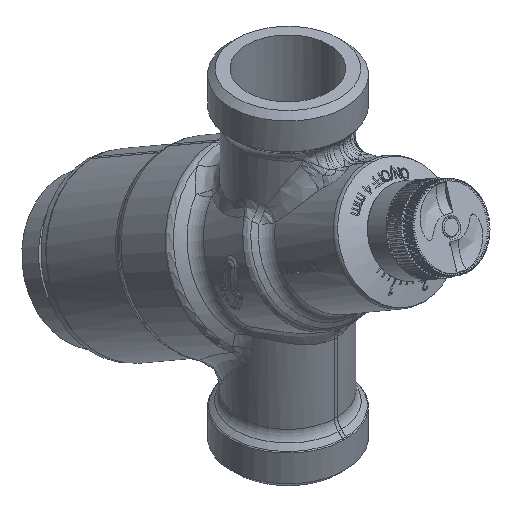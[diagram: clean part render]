
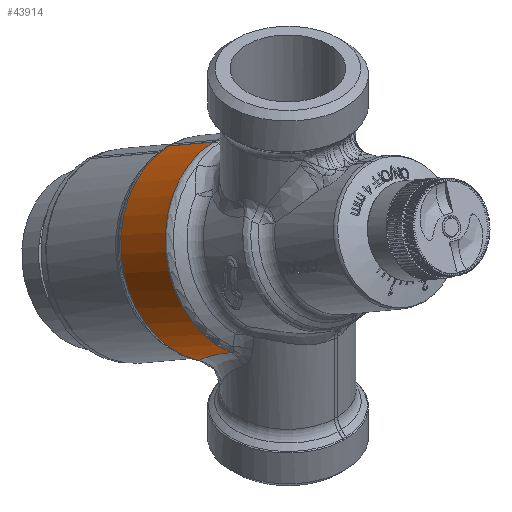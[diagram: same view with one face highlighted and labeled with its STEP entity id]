
A CAD part, isometric view. The second image highlights one B-rep face of the part: STEP entity #43914.
In plain terms, the highlighted cylindrical face has radius 18.65 mm (diameter 37.3 mm), a partial arc.
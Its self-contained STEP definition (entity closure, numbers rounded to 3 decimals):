
#2146=CIRCLE('',#47064,18.65);
#2147=CIRCLE('',#47066,18.65);
#5646=FACE_OUTER_BOUND('',#8193,.T.);
#8193=EDGE_LOOP('',(#31543,#31544,#31545,#31546));
#10925=B_SPLINE_CURVE_WITH_KNOTS('',3,(#72206,#72207,#72208,#72209,#72210,
#72211,#72212,#72213,#72214,#72215),.UNSPECIFIED.,.F.,.F.,(4,2,2,2,4),(0.,
0.003,0.006,0.009,0.012),
 .UNSPECIFIED.);
#12309=LINE('',#74637,#15588);
#15588=VECTOR('',#51237,1000.);
#19238=VERTEX_POINT('',#72010);
#19243=VERTEX_POINT('',#72204);
#19287=VERTEX_POINT('',#74632);
#19288=VERTEX_POINT('',#74636);
#23985=EDGE_CURVE('',#19238,#19243,#10925,.T.);
#24066=EDGE_CURVE('',#19243,#19287,#2146,.T.);
#24067=EDGE_CURVE('',#19287,#19288,#12309,.T.);
#24068=EDGE_CURVE('',#19238,#19288,#2147,.T.);
#31543=ORIENTED_EDGE('',*,*,#24066,.T.);
#31544=ORIENTED_EDGE('',*,*,#24067,.T.);
#31545=ORIENTED_EDGE('',*,*,#24068,.F.);
#31546=ORIENTED_EDGE('',*,*,#23985,.T.);
#43158=CYLINDRICAL_SURFACE('',#47065,18.65);
#43914=ADVANCED_FACE('',(#5646),#43158,.T.);
#47064=AXIS2_PLACEMENT_3D('',#74634,#51233,#51234);
#47065=AXIS2_PLACEMENT_3D('',#74635,#51235,#51236);
#47066=AXIS2_PLACEMENT_3D('',#74638,#51238,#51239);
#51233=DIRECTION('center_axis',(0.,0.866,
-0.5));
#51234=DIRECTION('ref_axis',(0.,0.5,0.866));
#51235=DIRECTION('center_axis',(0.,0.866,
-0.5));
#51236=DIRECTION('ref_axis',(0.,0.5,0.866));
#51237=DIRECTION('',(0.,0.866,-0.5));
#51238=DIRECTION('center_axis',(0.,0.866,
-0.5));
#51239=DIRECTION('ref_axis',(0.,0.5,0.866));
#72010=CARTESIAN_POINT('',(-10.495,10.188,-23.684));
#72204=CARTESIAN_POINT('',(-12.518,0.647,-16.336));
#72206=CARTESIAN_POINT('Ctrl Pts',(-10.495,10.188,-23.684));
#72207=CARTESIAN_POINT('Ctrl Pts',(-10.849,9.495,-23.006));
#72208=CARTESIAN_POINT('Ctrl Pts',(-11.156,8.782,-22.332));
#72209=CARTESIAN_POINT('Ctrl Pts',(-11.684,7.305,-21.007));
#72210=CARTESIAN_POINT('Ctrl Pts',(-11.906,6.541,-20.354));
#72211=CARTESIAN_POINT('Ctrl Pts',(-12.259,4.95,-19.09));
#72212=CARTESIAN_POINT('Ctrl Pts',(-12.388,4.133,-18.485));
#72213=CARTESIAN_POINT('Ctrl Pts',(-12.54,2.439,-17.349));
#72214=CARTESIAN_POINT('Ctrl Pts',(-12.564,1.563,-16.818));
#72215=CARTESIAN_POINT('Ctrl Pts',(-12.518,0.647,-16.336));
#74632=CARTESIAN_POINT('',(-0.399,16.882,11.783));
#74634=CARTESIAN_POINT('Origin',(0.,7.559,
-4.364));
#74635=CARTESIAN_POINT('Origin',(0.,-1.386,
0.8));
#74636=CARTESIAN_POINT('',(-0.399,27.219,5.815));
#74637=CARTESIAN_POINT('',(-0.399,7.937,16.948));
#74638=CARTESIAN_POINT('Origin',(0.,17.896,
-10.332));
